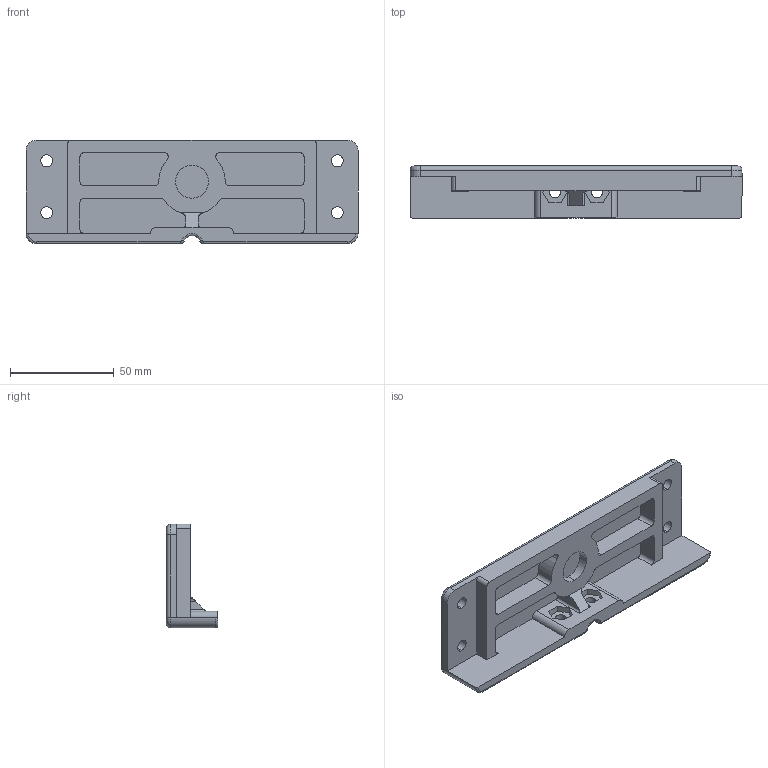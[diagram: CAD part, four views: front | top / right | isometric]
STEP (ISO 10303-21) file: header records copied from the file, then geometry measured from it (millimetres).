
FILE_DESCRIPTION (( 'STEP AP203' ), '1' );
FILE_NAME ('Z THREAD ROD BEARING MOUNT TOP.STEP', '2012-08-20T19:11:24', ( '' ), ( '' ), 'SwSTEP 2.0', 'SolidWorks 2012', '' );
FILE_SCHEMA (( 'CONFIG_CONTROL_DESIGN' ));
Length unit declared in the file: millimetre
Products named in the file (1): Z THREAD ROD BEARING MOUNT TOP
Bounding box: 160 x 25 x 50 mm (x, y, z)
Volume: 63779 mm3; surface area: 30588.8 mm2
Topology: 1 solids, 1 shells, 129 faces, 331 edges, 212 vertices
Faces by surface type: cylinder 65, plane 52, torus 10, sphere 2
Entity records: 4030 total; most frequent: DIRECTION 725, CARTESIAN_POINT 689, ORIENTED_EDGE 658, EDGE_CURVE 329, AXIS2_PLACEMENT_3D 272, VERTEX_POINT 212, LINE 181, VECTOR 181
